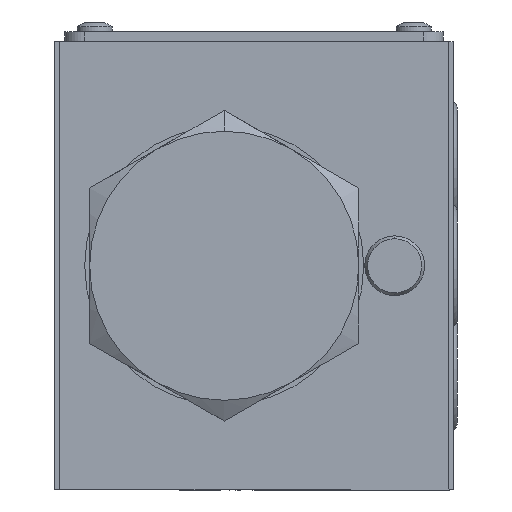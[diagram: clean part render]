
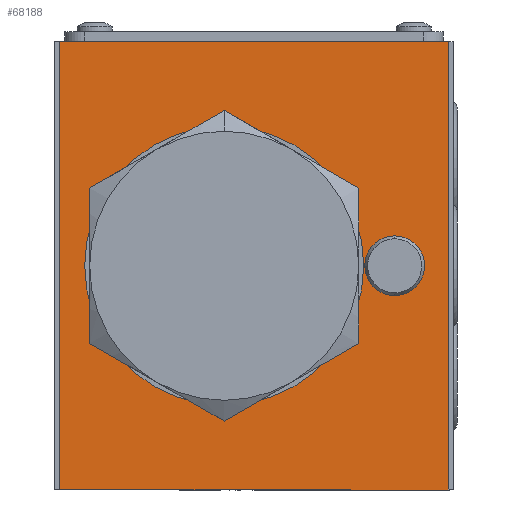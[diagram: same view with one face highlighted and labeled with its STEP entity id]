
A CAD part, left-side view. The second image highlights one B-rep face of the part: STEP entity #68188.
In plain terms, the highlighted planar face has unit normal (-1, 0, 0) as drawn and (0, 0, 1) by its records, which use the part's own axes.
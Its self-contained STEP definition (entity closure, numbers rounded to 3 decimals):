
#88 = LINE ( 'NONE', #78161, #37986 ) ;
#1151 = DIRECTION ( 'NONE',  ( 0., 0., 1. ) ) ;
#2559 = AXIS2_PLACEMENT_3D ( 'NONE', #72249, #29443, #79478 ) ;
#2611 = CARTESIAN_POINT ( 'NONE',  ( -3., -14.1, 46.5 ) ) ;
#5518 = LINE ( 'NONE', #64293, #79237 ) ;
#14933 = VECTOR ( 'NONE', #73862, 1000. ) ;
#15718 = DIRECTION ( 'NONE',  ( 0., 1., 0. ) ) ;
#17995 = VERTEX_POINT ( 'NONE', #21540 ) ;
#19009 = ORIENTED_EDGE ( 'NONE', *, *, #48421, .F. ) ;
#21540 = CARTESIAN_POINT ( 'NONE',  ( -22.5, -19.5, 46.5 ) ) ;
#23603 = CARTESIAN_POINT ( 'NONE',  ( 22.5, 19.5, 46.5 ) ) ;
#23880 = CARTESIAN_POINT ( 'NONE',  ( -22.5, 20., 46.5 ) ) ;
#24934 = CARTESIAN_POINT ( 'NONE',  ( -22.5, -20., 46.5 ) ) ;
#25398 = AXIS2_PLACEMENT_3D ( 'NONE', #43876, #1151, #51043 ) ;
#26006 = ORIENTED_EDGE ( 'NONE', *, *, #72681, .T. ) ;
#26293 = VERTEX_POINT ( 'NONE', #92197 ) ;
#26311 = ORIENTED_EDGE ( 'NONE', *, *, #80304, .F. ) ;
#27320 = VERTEX_POINT ( 'NONE', #23603 ) ;
#28657 = CARTESIAN_POINT ( 'NONE',  ( 0., 3., 46.5 ) ) ;
#28768 = CARTESIAN_POINT ( 'NONE',  ( 22.5, -19.5, 46.5 ) ) ;
#29368 = EDGE_CURVE ( 'NONE', #80158, #17995, #88, .T. ) ;
#29443 = DIRECTION ( 'NONE',  ( 0., 0., 1. ) ) ;
#32110 = DIRECTION ( 'NONE',  ( 0., 0., 1. ) ) ;
#32704 = VECTOR ( 'NONE', #15718, 1000. ) ;
#32795 = EDGE_CURVE ( 'NONE', #73556, #87673, #70648, .T. ) ;
#34134 = ORIENTED_EDGE ( 'NONE', *, *, #51799, .F. ) ;
#34589 = DIRECTION ( 'NONE',  ( 0., 0., 1. ) ) ;
#34950 = DIRECTION ( 'NONE',  ( -1., 0., 0. ) ) ;
#35789 = DIRECTION ( 'NONE',  ( 1., 0., 0. ) ) ;
#35841 = DIRECTION ( 'NONE',  ( 1., 0., 0. ) ) ;
#37578 = FACE_BOUND ( 'NONE', #50195, .T. ) ;
#37986 = VECTOR ( 'NONE', #34950, 1000. ) ;
#38962 = PLANE ( 'NONE',  #59708 ) ;
#43876 = CARTESIAN_POINT ( 'NONE',  ( 0., 3., 46.5 ) ) ;
#44666 = CARTESIAN_POINT ( 'NONE',  ( -14., 3., 46.5 ) ) ;
#45382 = AXIS2_PLACEMENT_3D ( 'NONE', #77463, #34589, #84619 ) ;
#45419 = CARTESIAN_POINT ( 'NONE',  ( 3., -14.1, 46.5 ) ) ;
#48083 = EDGE_LOOP ( 'NONE', ( #26311, #34134 ) ) ;
#48421 = EDGE_CURVE ( 'NONE', #87673, #73556, #90994, .T. ) ;
#50195 = EDGE_LOOP ( 'NONE', ( #82061, #19009 ) ) ;
#51043 = DIRECTION ( 'NONE',  ( 1., 0., 0. ) ) ;
#51204 = VERTEX_POINT ( 'NONE', #44666 ) ;
#51799 = EDGE_CURVE ( 'NONE', #51204, #26293, #78809, .T. ) ;
#52863 = LINE ( 'NONE', #23880, #14933 ) ;
#57398 = VERTEX_POINT ( 'NONE', #72622 ) ;
#58486 = CARTESIAN_POINT ( 'NONE',  ( 22.5, 20., 46.5 ) ) ;
#59708 = AXIS2_PLACEMENT_3D ( 'NONE', #24934, #32110, #82121 ) ;
#64293 = CARTESIAN_POINT ( 'NONE',  ( -22.5, 19.5, 46.5 ) ) ;
#68188 = ADVANCED_FACE ( 'NONE', ( #80124, #37578, #75641 ), #38962, .T. ) ;
#70035 = CIRCLE ( 'NONE', #25398, 14. ) ;
#70648 = CIRCLE ( 'NONE', #45382, 3. ) ;
#71663 = ORIENTED_EDGE ( 'NONE', *, *, #29368, .F. ) ;
#72249 = CARTESIAN_POINT ( 'NONE',  ( 0., -14.1, 46.5 ) ) ;
#72622 = CARTESIAN_POINT ( 'NONE',  ( -22.5, 19.5, 46.5 ) ) ;
#72681 = EDGE_CURVE ( 'NONE', #80158, #27320, #87446, .T. ) ;
#73556 = VERTEX_POINT ( 'NONE', #45419 ) ;
#73862 = DIRECTION ( 'NONE',  ( 0., -1., 0. ) ) ;
#74998 = EDGE_CURVE ( 'NONE', #57398, #17995, #52863, .T. ) ;
#75641 = FACE_BOUND ( 'NONE', #48083, .T. ) ;
#76906 = EDGE_CURVE ( 'NONE', #57398, #27320, #5518, .T. ) ;
#77463 = CARTESIAN_POINT ( 'NONE',  ( 0., -14.1, 46.5 ) ) ;
#78161 = CARTESIAN_POINT ( 'NONE',  ( 22.5, -19.5, 46.5 ) ) ;
#78664 = DIRECTION ( 'NONE',  ( 0., 0., 1. ) ) ;
#78809 = CIRCLE ( 'NONE', #84729, 14. ) ;
#79237 = VECTOR ( 'NONE', #35841, 1000. ) ;
#79478 = DIRECTION ( 'NONE',  ( 1., 0., 0. ) ) ;
#79716 = ORIENTED_EDGE ( 'NONE', *, *, #76906, .F. ) ;
#80124 = FACE_OUTER_BOUND ( 'NONE', #84609, .T. ) ;
#80158 = VERTEX_POINT ( 'NONE', #28768 ) ;
#80304 = EDGE_CURVE ( 'NONE', #26293, #51204, #70035, .T. ) ;
#82061 = ORIENTED_EDGE ( 'NONE', *, *, #32795, .F. ) ;
#82121 = DIRECTION ( 'NONE',  ( 1., 0., 0. ) ) ;
#84502 = ORIENTED_EDGE ( 'NONE', *, *, #74998, .T. ) ;
#84609 = EDGE_LOOP ( 'NONE', ( #71663, #26006, #79716, #84502 ) ) ;
#84619 = DIRECTION ( 'NONE',  ( 1., 0., 0. ) ) ;
#84729 = AXIS2_PLACEMENT_3D ( 'NONE', #28657, #78664, #35789 ) ;
#87446 = LINE ( 'NONE', #58486, #32704 ) ;
#87673 = VERTEX_POINT ( 'NONE', #2611 ) ;
#90994 = CIRCLE ( 'NONE', #2559, 3. ) ;
#92197 = CARTESIAN_POINT ( 'NONE',  ( 14., 3., 46.5 ) ) ;
